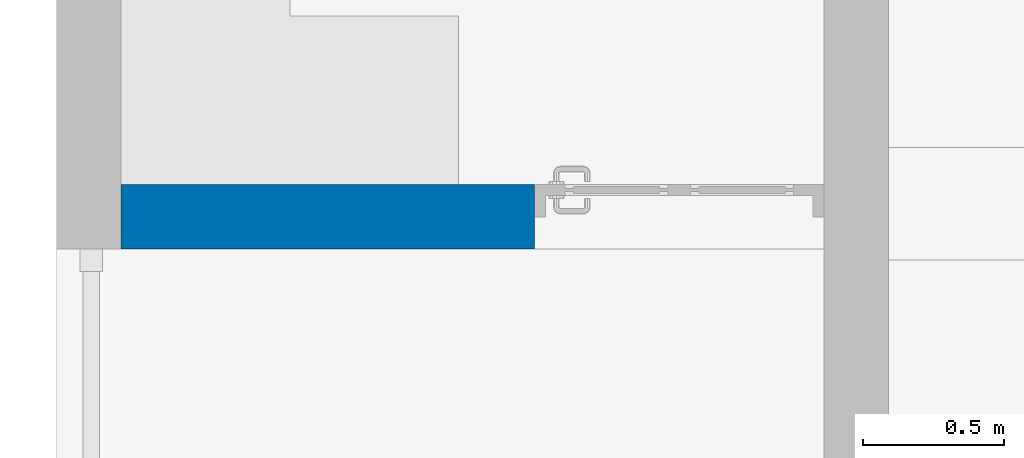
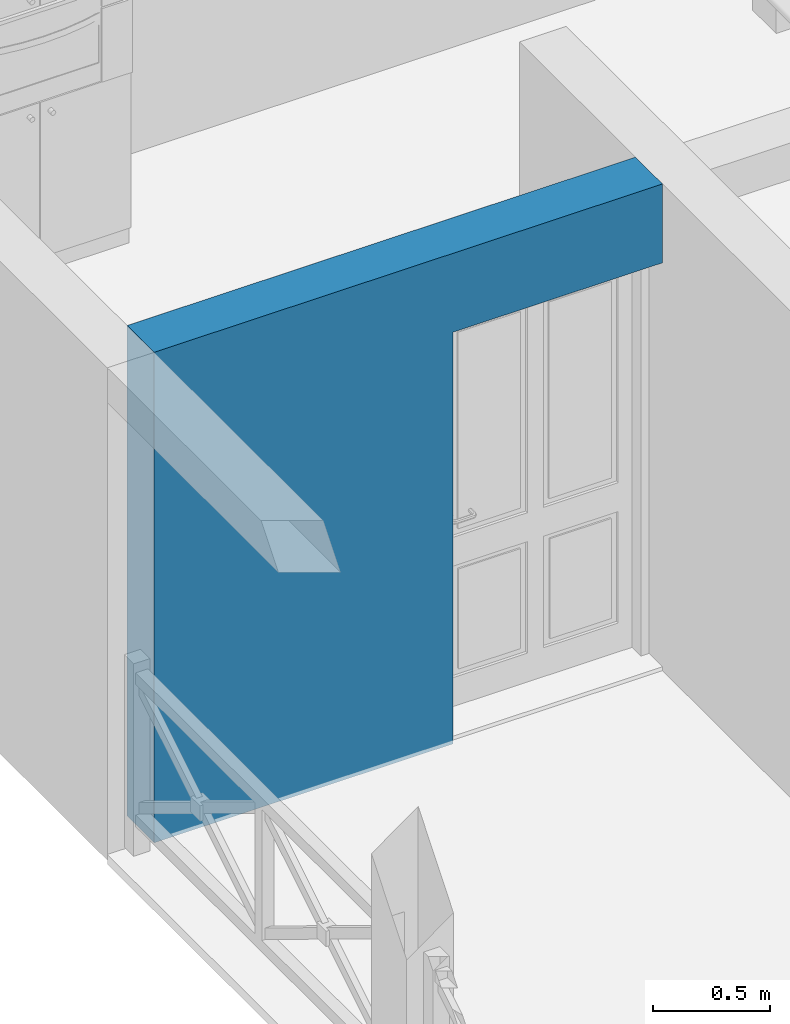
# One storey, part 9 of 17: 1 wall, 1 opening.
"""IFC2X3 building model written with IfcOpenShell, lengths in metres."""

import ifcopenshell
import ifcopenshell.guid

model = None  # the IFC model being written
_history = None  # IfcOwnerHistory: only IFC2X3 demands one
_inside = {}  # id of a spatial element -> (the spatial element, [elements in it])
_under = {}  # id of a project, library or spatial element -> (it, [spatial elements below it])
_declared = {}  # id of a project -> (the project, [libraries it declares])
_typed = {}  # id of a type object -> (the type object, [elements of that type])
_made_of = {}  # id of a material, layer set ... -> (it, [elements and type objects made of it])


def new_model(schema):
    """Start an empty IFC model of exactly this schema.

    Asked for "IFC4X3", IfcOpenShell would pick the latest addendum, in which some entities
    have other attributes; the version numbers below select the first issue.
    IFC2X3 requires an IfcOwnerHistory on every rooted entity: one is made here for all.
    """
    global model, _history
    if schema == "IFC4X3":
        model = ifcopenshell.file(schema_version=(4, 3, 0, 0))
    else:
        model = ifcopenshell.file(schema=schema)
    _inside.clear()
    _under.clear()
    _declared.clear()
    _typed.clear()
    _made_of.clear()
    _history = None
    if model.schema == "IFC2X3":
        org = make("IfcOrganization", Name="unknown")
        user = make(
            "IfcPersonAndOrganization",
            ThePerson=make("IfcPerson", FamilyName="unknown"),
            TheOrganization=org,
        )
        app = make(
            "IfcApplication",
            ApplicationDeveloper=org,
            Version="unknown",
            ApplicationFullName="unknown",
            ApplicationIdentifier="unknown",
        )
        _history = make(
            "IfcOwnerHistory",
            OwningUser=user,
            OwningApplication=app,
            ChangeAction="ADDED",
            CreationDate=0,
        )
    return model


def make(cls, **values):
    """One entity of the class cls with the attributes given. An attribute that is None is left unset."""
    return model.create_entity(
        cls, **{name: value for name, value in values.items() if value is not None}
    )


def entity(cls, *values):
    """Any entity or typed value of the class cls, its attributes in the order of the schema. None: left unset."""
    e = model.create_entity(cls)
    for i, value in enumerate(values):
        if value is not None:
            e[i] = value
    return e


def rooted(cls, **values):
    """An entity with a GlobalId (a new one), such as an element, a storey or a relation."""
    return make(cls, GlobalId=ifcopenshell.guid.new(), OwnerHistory=_history, **values)


def si_unit(unit_type, name, prefix=None):
    """IfcSIUnit, for example si_unit("LENGTHUNIT", "METRE", prefix="MILLI")."""
    return make("IfcSIUnit", UnitType=unit_type, Prefix=prefix, Name=name)


def converted_unit(unit_type, name, factor, base, dimensions=None, offset=None):
    """IfcConversionBasedUnit, such as the inch: factor (a typed value) times the base unit."""
    return make(
        "IfcConversionBasedUnit"
        if offset is None
        else "IfcConversionBasedUnitWithOffset",
        ConversionOffset=offset,
        Dimensions=None
        if dimensions is None
        else entity("IfcDimensionalExponents", *dimensions),
        UnitType=unit_type,
        Name=name,
        ConversionFactor=make(
            "IfcMeasureWithUnit", ValueComponent=factor, UnitComponent=base
        ),
    )


def derived_unit(unit_type, elements):
    """IfcDerivedUnit: a product of units, each with its exponent."""
    return make(
        "IfcDerivedUnit",
        Elements=[
            make("IfcDerivedUnitElement", Unit=unit, Exponent=power)
            for unit, power in elements
        ],
        UnitType=unit_type,
    )


def money_unit(currency):
    """IfcMonetaryUnit."""
    return make("IfcMonetaryUnit", Currency=currency)


def assignment(units):
    """IfcUnitAssignment: the units of a project."""
    return None if units is None else make("IfcUnitAssignment", Units=units)


def point(xyz):
    """IfcCartesianPoint."""
    return None if xyz is None else make("IfcCartesianPoint", Coordinates=xyz)


def direction(xyz):
    """IfcDirection."""
    return None if xyz is None else make("IfcDirection", DirectionRatios=xyz)


def frame(location, z_axis=None, x_axis=None):
    """IfcAxis2Placement3D, a coordinate frame: its origin and axes. An axis left out is left unset."""
    return make(
        "IfcAxis2Placement3D",
        Location=point(location),
        Axis=direction(z_axis),
        RefDirection=direction(x_axis),
    )


def frame_2d(location, x_axis=None):
    """IfcAxis2Placement2D, a coordinate frame in the plane: its origin and x axis."""
    return make(
        "IfcAxis2Placement2D", Location=point(location), RefDirection=direction(x_axis)
    )


def origin_with_axes():
    """The frame at (0, 0, 0) with the z axis (0, 0, 1) and the x axis (1, 0, 0) written out."""
    return frame((0.0, 0.0, 0.0), z_axis=(0.0, 0.0, 1.0), x_axis=(1.0, 0.0, 0.0))


def origin_2d_with_axis():
    """The frame at (0, 0) in the plane with the x axis (1, 0) written out."""
    return frame_2d((0.0, 0.0), x_axis=(1.0, 0.0))


def place(relative_to, where):
    """IfcLocalPlacement: puts the frame where relative to a parent placement (None: the world)."""
    return make(
        "IfcLocalPlacement", PlacementRelTo=relative_to, RelativePlacement=where
    )


def context(
    kind, dimensions, precision=None, world=None, true_north=None, identifier=None
):
    """IfcGeometricRepresentationContext, for example the 3D "Model" context."""
    return make(
        "IfcGeometricRepresentationContext",
        ContextIdentifier=identifier,
        ContextType=kind,
        CoordinateSpaceDimension=dimensions,
        Precision=precision,
        WorldCoordinateSystem=world,
        TrueNorth=true_north,
    )


def subcontext(parent, identifier, kind, view, scale=None):
    """IfcGeometricRepresentationSubContext, for example "Body" below "Model"."""
    return make(
        "IfcGeometricRepresentationSubContext",
        ContextIdentifier=identifier,
        ContextType=kind,
        ParentContext=parent,
        TargetScale=scale,
        TargetView=view,
    )


def project(units=None, contexts=None):
    """IfcProject with its units and contexts."""
    return rooted(
        "IfcProject",
        Name="project",
        RepresentationContexts=contexts,
        UnitsInContext=assignment(units),
    )


def spatial(cls, under=None, at=None, **own):
    """A site, building, storey or space (cls), placed at a placement, below another one or the project."""
    s = rooted(cls, ObjectPlacement=at, **own)
    if under is not None:
        _under.setdefault(under.id(), (under, []))[1].append(s)
    return s


def polyline(points):
    """IfcPolyline through the points."""
    return make("IfcPolyline", Points=[point(p) for p in points])


def profile(cls, at=None, kind="AREA", **sizes):
    """A parametric profile (cls). Its sizes go by their IFC names, for example OverallWidth=200.0."""
    return make(cls, ProfileType=kind, Position=at, **sizes)


def rectangle(**sizes):
    """IfcRectangleProfileDef."""
    return profile("IfcRectangleProfileDef", **sizes)


def outline(outer, holes=None, kind="AREA"):
    """IfcArbitraryClosedProfileDef: a profile drawn as a closed curve; with holes, ...WithVoids."""
    if holes is None:
        return make("IfcArbitraryClosedProfileDef", ProfileType=kind, OuterCurve=outer)
    return make(
        "IfcArbitraryProfileDefWithVoids",
        ProfileType=kind,
        OuterCurve=outer,
        InnerCurves=holes,
    )


def extrude(swept, where, along, depth):
    """IfcExtrudedAreaSolid: the profile swept, set in the frame where, extruded along a direction by depth."""
    return make(
        "IfcExtrudedAreaSolid",
        SweptArea=swept,
        Position=where,
        ExtrudedDirection=direction(along),
        Depth=depth,
    )


def boolean(op, a, b):
    """IfcBooleanResult of two solids."""
    return make("IfcBooleanResult", Operator=op, FirstOperand=a, SecondOperand=b)


def faces_of(points, faces, orient=None, outer=None):
    """IfcFace entities. A face is a list of loops; a loop is a list of indices into points, from 0.

    orient and outer hold one flag for each loop. By default every Orientation is true, the
    first loop of a face is its IfcFaceOuterBound and the others are IfcFaceBound.
    """
    made = []
    for i, loops in enumerate(faces):
        bounds = []
        for j, loop in enumerate(loops):
            is_outer = j == 0 if outer is None else outer[i][j]
            bounds.append(
                make(
                    "IfcFaceOuterBound" if is_outer else "IfcFaceBound",
                    Bound=make("IfcPolyLoop", Polygon=[points[k] for k in loop]),
                    Orientation=True if orient is None else orient[i][j],
                )
            )
        made.append(make("IfcFace", Bounds=bounds))
    return made


def faceted_brep(points, faces, orient=None, outer=None, voids=None):
    """IfcFacetedBrep: a solid bounded by flat faces; with voids (closed shells), ...WithVoids."""
    shared = [point(p) for p in points]
    hull = make("IfcClosedShell", CfsFaces=faces_of(shared, faces, orient, outer))
    if voids is None:
        return make("IfcFacetedBrep", Outer=hull)
    return make(
        "IfcFacetedBrepWithVoids",
        Outer=hull,
        Voids=[
            make(cls, CfsFaces=faces_of(shared, fs, o, b)) for cls, fs, o, b in voids
        ],
    )


def shape(context_of_items, identifier, shape_type, items):
    """IfcShapeRepresentation: the items that make up one representation, for example the "Body"."""
    return make(
        "IfcShapeRepresentation",
        ContextOfItems=context_of_items,
        RepresentationIdentifier=identifier,
        RepresentationType=shape_type,
        Items=items,
    )


def material(Name=None, Category=None):
    """IfcMaterial."""
    return make("IfcMaterial", Name=Name, Category=Category)


def made_of(thing, what):
    """Note that an element or type object is made of a material, layer set ...; save() writes the relation."""
    if what is not None:
        _made_of.setdefault(what.id(), (what, []))[1].append(thing)
    return thing


def type_object(cls, material=None, **own):
    """A type object (cls), such as IfcWallType, which elements share."""
    return made_of(rooted(cls, **own), material)


def element(
    cls,
    number,
    at=None,
    inside=None,
    cuts=None,
    type_object=None,
    material=None,
    context=None,
    identifier="Body",
    shape_type=None,
    held_by="IfcProductDefinitionShape",
    body=None,
    shapes=None,
    **own,
):
    """One element of the class cls, such as IfcWall. Its Tag is "e" and its number.

    at: its placement. inside: the storey or other place that contains it. cuts: it is an
    opening in that element (IfcRelVoidsElement). A single representation is given by context,
    identifier, shape_type and body (its items); several are given by shapes. held_by: the class
    of the entity that holds the representations. save() writes the other relations.
    """
    e = rooted(cls, Tag="e%d" % number, ObjectPlacement=at, **own)
    if body is not None:
        shapes = [shape(context, identifier, shape_type, body)]
    if shapes is not None:
        e.Representation = make(held_by, Representations=shapes)
    if inside is not None:
        _inside.setdefault(inside.id(), (inside, []))[1].append(e)
    if cuts is not None:
        rooted(
            "IfcRelVoidsElement", RelatingBuildingElement=cuts, RelatedOpeningElement=e
        )
    if type_object is not None:
        _typed.setdefault(type_object.id(), (type_object, []))[1].append(e)
    return made_of(e, material)


def aggregate(whole, parts):
    """IfcRelAggregates: a whole, such as a stair, and the parts it consists of."""
    return rooted("IfcRelAggregates", RelatingObject=whole, RelatedObjects=parts)


def save(model, path):
    """Write the relations noted so far, then the file.

    IfcRelAggregates (storeys below a building ...), IfcRelContainedInSpatialStructure (elements
    in a storey), IfcRelDefinesByType, IfcRelAssociatesMaterial and IfcRelDeclares: one each for
    every whole, place, type object, material and project.
    """
    for whole, parts in _under.values():
        aggregate(whole, parts)
    for where, things in _inside.values():
        rooted(
            "IfcRelContainedInSpatialStructure",
            RelatedElements=things,
            RelatingStructure=where,
        )
    for kind, things in _typed.values():
        rooted("IfcRelDefinesByType", RelatedObjects=things, RelatingType=kind)
    for what, things in _made_of.values():
        rooted("IfcRelAssociatesMaterial", RelatedObjects=things, RelatingMaterial=what)
    for by, libraries in _declared.values():
        rooted("IfcRelDeclares", RelatingContext=by, RelatedDefinitions=libraries)
    model.write(path)


model = new_model("IFC2X3")

# Units and contexts
model_context = context("Model", 3, precision=1e-05, world=origin_with_axes(), true_north=direction((0.0, 1.0)))
body_context = subcontext(model_context, "Body", "Model", "MODEL_VIEW")
ifc_project = project(units=[si_unit("LENGTHUNIT", "METRE"), si_unit("AREAUNIT", "SQUARE_METRE"), si_unit("VOLUMEUNIT", "CUBIC_METRE"), converted_unit("PLANEANGLEUNIT", "DEGREE", entity("IfcPlaneAngleMeasure", 0.0174532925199), si_unit("PLANEANGLEUNIT", "RADIAN"), dimensions=[0, 0, 0, 0, 0, 0, 0]), si_unit("SOLIDANGLEUNIT", "STERADIAN"), money_unit("CHF"), converted_unit("TIMEUNIT", "Year", entity("IfcTimeMeasure", 31556926.0), si_unit("TIMEUNIT", "SECOND"), dimensions=[0, 0, 1, 0, 0, 0, 0]), si_unit("MASSUNIT", "GRAM", prefix="KILO"), si_unit("THERMODYNAMICTEMPERATUREUNIT", "DEGREE_CELSIUS"), si_unit("LUMINOUSINTENSITYUNIT", "LUMEN"), si_unit("ENERGYUNIT", "JOULE", prefix="MEGA"), derived_unit("THERMALCONDUCTANCEUNIT", [(si_unit("POWERUNIT", "WATT"), 1), (si_unit("LENGTHUNIT", "METRE"), -1), (si_unit("THERMODYNAMICTEMPERATUREUNIT", "KELVIN"), -1)]), derived_unit("SPECIFICHEATCAPACITYUNIT", [(si_unit("ENERGYUNIT", "JOULE"), 1), (si_unit("MASSUNIT", "GRAM", prefix="KILO"), -1), (si_unit("THERMODYNAMICTEMPERATUREUNIT", "KELVIN"), -1)]), derived_unit("MASSDENSITYUNIT", [(si_unit("MASSUNIT", "GRAM", prefix="KILO"), 1), (si_unit("VOLUMEUNIT", "CUBIC_METRE"), -1)])], contexts=[model_context])

# Site, building, storey
site_placement = place(None, origin_with_axes())
site = spatial("IfcSite", under=ifc_project, at=site_placement, Name="Site", CompositionType="ELEMENT")
building_placement = place(site_placement, origin_with_axes())
building = spatial("IfcBuilding", under=site, at=building_placement, Name="Bâtiment", CompositionType="ELEMENT")
storey_placement = place(building_placement, frame((0.0, 0.0, 3.0), z_axis=(0.0, 0.0, 1.0), x_axis=(1.0, 0.0, 0.0)))
storey = spatial("IfcBuildingStorey", under=building, at=storey_placement, Name="RDJ", CompositionType="ELEMENT", Elevation=3.0)

# Wall, opening
ifc_material = material(Name="Hachure solide 2628782308")
wall_type = type_object("IfcWallType", Name="Hachure solide 2628782308 230", PredefinedType="NOTDEFINED")
wall_placement = place(storey_placement, frame((87.5135190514, 14.1503410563, -3.04), z_axis=(0.0, 0.0, 1.0), x_axis=(-1.0, 0.0, 0.0)))
wall = element("IfcWall", 1, at=wall_placement, inside=storey, type_object=wall_type, material=ifc_material, Name="MurExt-010", context=body_context, shape_type="CSG", body=[
    boolean("DIFFERENCE", boolean("DIFFERENCE", extrude(outline(polyline([(0.0, -0.23), (2.73, -0.23), (2.73, 0.0), (0.0, 0.0), (0.0, -0.23)])), origin_with_axes(), (0.0, 0.0, 1.0), 2.55), faceted_brep([(2.5, 0.0, 2.55), (2.5, -0.23, 2.55), (2.73, -0.23, 2.55), (2.73, 0.0, 2.55), (2.5, -0.23, 0.0), (2.5, 0.0, 0.0), (2.73, -0.23, 0.0), (2.73, 0.0, 0.0)], [[[0, 1, 2, 3]], [[4, 1, 0, 5]], [[1, 4, 6, 2]], [[2, 6, 7, 3]], [[5, 0, 3, 7]], [[4, 5, 7, 6]]])), faceted_brep([(1.02999994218, -0.23, 0.0), (1.02999994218, -0.23, 0.04), (9.53674827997e-09, -0.23, 0.04), (0.0, -0.23, 0.0), (1.02999994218, 6.07967933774e-08, 0.0), (1.02999994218, 6.07967933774e-08, 0.04), (9.53674827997e-09, 6.07967933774e-08, 0.04), (0.0, 0.0, 0.0)], [[[0, 1, 2, 3]], [[1, 0, 4, 5]], [[6, 2, 1, 5]], [[2, 6, 7, 3]], [[4, 0, 3, 7]], [[5, 4, 7, 6]]])),
])
opening_placement = place(wall_placement, frame((0.515, 0.0, 0.04), z_axis=(0.0, 0.0, 1.0), x_axis=(1.0, 0.0, 0.0)))
element("IfcOpeningElement", 2, at=opening_placement, cuts=wall, Name="Por-050", context=body_context, shape_type="SweptSolid", body=[
    extrude(rectangle(XDim=1.03, YDim=2.1, at=origin_2d_with_axis()), frame((0.0, 0.23, 1.05), z_axis=(0.0, -1.0, 0.0), x_axis=(-1.0, 0.0, 0.0)), (0.0, 0.0, 1.0), 0.69),
])

save(model, "model.ifc")
